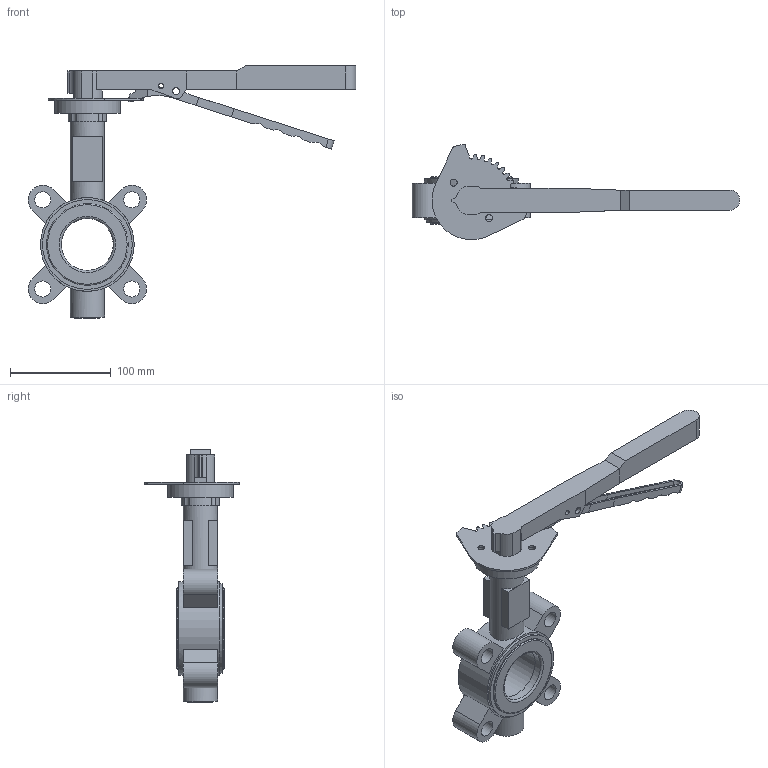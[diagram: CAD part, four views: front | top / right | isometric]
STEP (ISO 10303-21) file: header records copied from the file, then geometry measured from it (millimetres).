
FILE_DESCRIPTION (( 'STEP AP203' ), '1' );
FILE_NAME ('2502 LT型中线衬胶带销 手柄蝶阀 DN50 PN16 CD0309136.STEP', '2026-04-13T01:11:29', ( '' ), ( '' ), 'SwSTEP 2.0', 'SolidWorks 2018', '' );
FILE_SCHEMA (( 'CONFIG_CONTROL_DESIGN' ));
Length unit declared in the file: millimetre
Products named in the file (8): 新型玛钢手柄装配体-DN50-DN80-立方11-9004; GALA-D50-04AZC-00 概极傍蝶; 新型玛钢手柄副手柄(长)-DN50-DN80-9004; 2502 LT型中线衬胶带销 手柄蝶阀 DN50 PN16 CD0309136; 新型玛钢手柄主手柄(长)-DN50-DN80-立方9-9004; DIN908 塞堵M20×1.5; GALA-D50-01LC-00; YH-D50-80-06Y-01 DN40-DN80 喘攫
Assembly tree (7 placements, depth 3):
  2502 LT型中线衬胶带销 手柄蝶阀 DN50 PN16 CD0309136
    GALA-D50-04AZC-00 概极傍蝶
    DIN908 塞堵M20×1.5
    GALA-D50-01LC-00
    YH-D50-80-06Y-01 DN40-DN80 喘攫
    新型玛钢手柄装配体-DN50-DN80-立方11-9004
      新型玛钢手柄副手柄(长)-DN50-DN80-9004
      新型玛钢手柄主手柄(长)-DN50-DN80-立方9-9004
Bounding box: 324.81 x 94.53 x 250 mm (x, y, z)
Volume: 533904.1 mm3; surface area: 156200.9 mm2
Topology: 6 solids, 6 shells, 277 faces, 731 edges, 478 vertices
Faces by surface type: plane 135, cylinder 128, torus 8, cone 6
Full cylindrical faces by diameter (mm): 5 x4, 7 x10, 16 x4, 20 x1, 25 x2, 27 x1, 34 x2, 51.362 x1, 61 x2, 65 x1, 81 x4, 89 x1, 93 x1
Entity records: 9441 total; most frequent: CARTESIAN_POINT 1668, DIRECTION 1511, ORIENTED_EDGE 1350, EDGE_CURVE 675, AXIS2_PLACEMENT_3D 562, VERTEX_POINT 471, LINE 387, VECTOR 387
